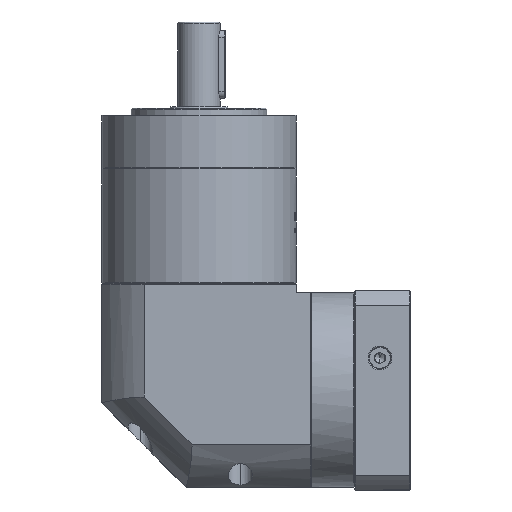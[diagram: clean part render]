
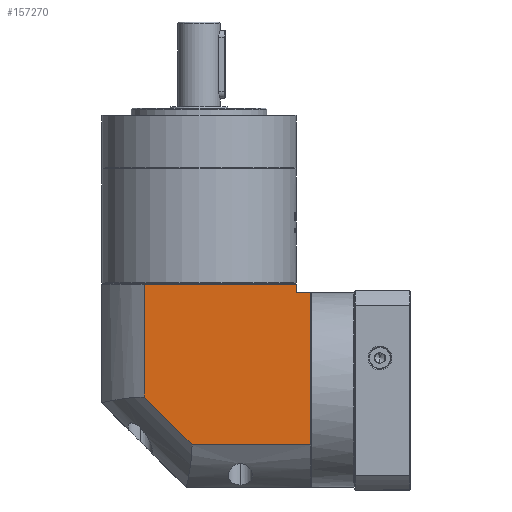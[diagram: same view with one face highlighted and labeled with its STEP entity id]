
A CAD part, left-side view. The second image highlights one B-rep face of the part: STEP entity #157270.
In plain terms, the highlighted planar face has unit normal (-1, 0, 0).
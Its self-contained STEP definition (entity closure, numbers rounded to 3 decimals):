
#70 = ORIENTED_EDGE ( 'NONE', *, *, #32241, .T. ) ;
#1955 = CARTESIAN_POINT ( 'NONE',  ( -242.722, -88.898, -29.527 ) ) ;
#4334 = CARTESIAN_POINT ( 'NONE',  ( -242.722, 1.002, 90.473 ) ) ;
#7889 = CARTESIAN_POINT ( 'NONE',  ( -242.722, -88.898, 85.473 ) ) ;
#11385 = FACE_OUTER_BOUND ( 'NONE', #100839, .T. ) ;
#14772 = LINE ( 'NONE', #7889, #89439 ) ;
#20930 = ORIENTED_EDGE ( 'NONE', *, *, #57572, .F. ) ;
#20965 = VECTOR ( 'NONE', #99653, 1000. ) ;
#27210 = DIRECTION ( 'NONE',  ( 0., 1., 0. ) ) ;
#28417 = CARTESIAN_POINT ( 'NONE',  ( -242.722, 26.102, -4.427 ) ) ;
#29988 = DIRECTION ( 'NONE',  ( 0., 1., 0. ) ) ;
#32241 = EDGE_CURVE ( 'NONE', #86848, #173427, #14772, .T. ) ;
#34535 = CARTESIAN_POINT ( 'NONE',  ( -242.722, -97.298, 85.473 ) ) ;
#36020 = VECTOR ( 'NONE', #100398, 1000. ) ;
#39673 = DIRECTION ( 'NONE',  ( 0., -1., 0. ) ) ;
#42592 = VERTEX_POINT ( 'NONE', #75150 ) ;
#50328 = ORIENTED_EDGE ( 'NONE', *, *, #122423, .F. ) ;
#53631 = VECTOR ( 'NONE', #27210, 1000. ) ;
#55255 = VERTEX_POINT ( 'NONE', #74595 ) ;
#55901 = VERTEX_POINT ( 'NONE', #146078 ) ;
#57572 = EDGE_CURVE ( 'NONE', #105139, #42592, #177789, .T. ) ;
#58587 = DIRECTION ( 'NONE',  ( 0., 0., -1. ) ) ;
#60653 = ORIENTED_EDGE ( 'NONE', *, *, #134805, .T. ) ;
#61264 = ORIENTED_EDGE ( 'NONE', *, *, #76667, .F. ) ;
#66020 = ORIENTED_EDGE ( 'NONE', *, *, #120304, .F. ) ;
#69507 = DIRECTION ( 'NONE',  ( 0., 0.707, 0.707 ) ) ;
#71388 = VECTOR ( 'NONE', #69507, 1000. ) ;
#72619 = VECTOR ( 'NONE', #39673, 1000. ) ;
#74595 = CARTESIAN_POINT ( 'NONE',  ( -242.722, -27.336, -4.427 ) ) ;
#75150 = CARTESIAN_POINT ( 'NONE',  ( -242.722, -88.898, 90.473 ) ) ;
#75952 = AXIS2_PLACEMENT_3D ( 'NONE', #142182, #169776, #29988 ) ;
#76667 = EDGE_CURVE ( 'NONE', #55255, #157163, #161047, .T. ) ;
#82804 = CARTESIAN_POINT ( 'NONE',  ( -242.722, 1.002, 23.911 ) ) ;
#83998 = PLANE ( 'NONE',  #75952 ) ;
#86848 = VERTEX_POINT ( 'NONE', #34535 ) ;
#89439 = VECTOR ( 'NONE', #93270, 1000. ) ;
#90605 = ORIENTED_EDGE ( 'NONE', *, *, #124903, .F. ) ;
#93270 = DIRECTION ( 'NONE',  ( 0., 1., 0. ) ) ;
#99036 = CARTESIAN_POINT ( 'NONE',  ( -242.722, -97.298, 96.973 ) ) ;
#99653 = DIRECTION ( 'NONE',  ( 0., 0., 1. ) ) ;
#100398 = DIRECTION ( 'NONE',  ( 0., 0., 1. ) ) ;
#100839 = EDGE_LOOP ( 'NONE', ( #90605, #61264, #66020, #50328, #70, #60653, #20930 ) ) ;
#105139 = VERTEX_POINT ( 'NONE', #4334 ) ;
#117040 = LINE ( 'NONE', #130980, #36020 ) ;
#120304 = EDGE_CURVE ( 'NONE', #55901, #55255, #180755, .T. ) ;
#122423 = EDGE_CURVE ( 'NONE', #86848, #55901, #159912, .T. ) ;
#124903 = EDGE_CURVE ( 'NONE', #157163, #105139, #117040, .T. ) ;
#130980 = CARTESIAN_POINT ( 'NONE',  ( -242.722, 1.002, 96.973 ) ) ;
#134805 = EDGE_CURVE ( 'NONE', #173427, #42592, #137278, .T. ) ;
#137278 = LINE ( 'NONE', #1955, #20965 ) ;
#138383 = CARTESIAN_POINT ( 'NONE',  ( -242.722, 26.102, 90.473 ) ) ;
#142182 = CARTESIAN_POINT ( 'NONE',  ( -242.722, 26.102, 96.973 ) ) ;
#146078 = CARTESIAN_POINT ( 'NONE',  ( -242.722, -97.298, -4.427 ) ) ;
#153509 = CARTESIAN_POINT ( 'NONE',  ( -242.722, -27.336, -4.427 ) ) ;
#157163 = VERTEX_POINT ( 'NONE', #82804 ) ;
#157270 = ADVANCED_FACE ( 'NONE', ( #11385 ), #83998, .F. ) ;
#159912 = LINE ( 'NONE', #99036, #175211 ) ;
#161047 = LINE ( 'NONE', #153509, #71388 ) ;
#167840 = CARTESIAN_POINT ( 'NONE',  ( -242.722, -88.898, 85.473 ) ) ;
#169776 = DIRECTION ( 'NONE',  ( 1., 0., 0. ) ) ;
#173427 = VERTEX_POINT ( 'NONE', #167840 ) ;
#175211 = VECTOR ( 'NONE', #58587, 1000. ) ;
#177789 = LINE ( 'NONE', #138383, #72619 ) ;
#180755 = LINE ( 'NONE', #28417, #53631 ) ;
